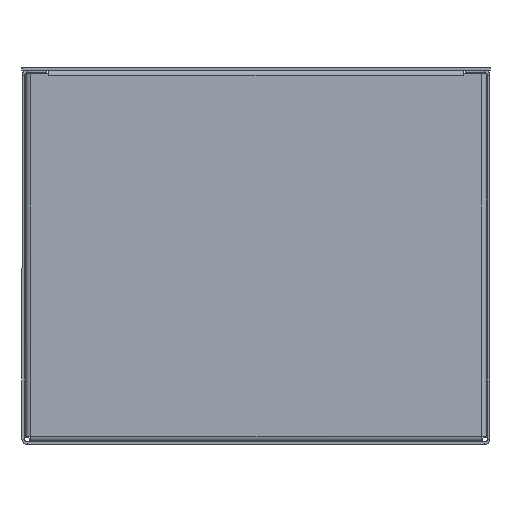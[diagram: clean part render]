
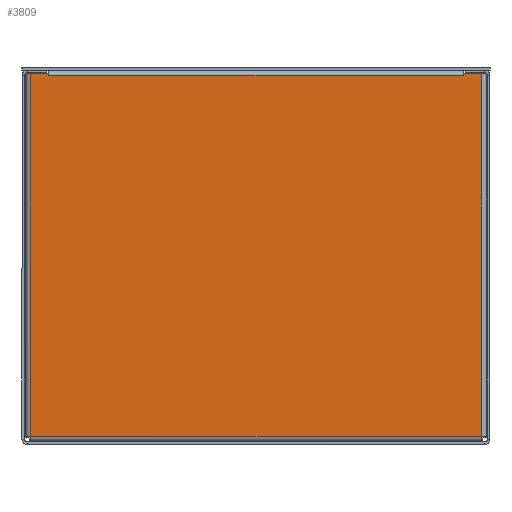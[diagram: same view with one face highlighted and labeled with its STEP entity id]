
A CAD part, front view. The second image highlights one B-rep face of the part: STEP entity #3809.
In plain terms, the highlighted planar face has unit normal (0, -1, 0).
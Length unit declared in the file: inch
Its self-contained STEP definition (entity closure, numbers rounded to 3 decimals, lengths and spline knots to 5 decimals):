
#6 = DIRECTION ( 'NONE',  ( 0., 1., 0. ) ) ;
#12 = DIRECTION ( 'NONE',  ( 0., 0., 1. ) ) ;
#15 = CARTESIAN_POINT ( 'NONE',  ( -4.815, 0., 7.92 ) ) ;
#92 = CARTESIAN_POINT ( 'NONE',  ( -4.93, 0., 7.92 ) ) ;
#93 = AXIS2_PLACEMENT_3D ( 'NONE', #92, #6, #12 ) ;
#95 = CARTESIAN_POINT ( 'NONE',  ( 4.43, 0., 7.92 ) ) ;
#319 = DIRECTION ( 'NONE',  ( 0., 0., -1. ) ) ;
#320 = PLANE ( 'NONE',  #93 ) ;
#324 = VECTOR ( 'NONE', #319, 39.37008 ) ;
#393 = FACE_OUTER_BOUND ( 'NONE', #3810, .T. ) ;
#394 = LINE ( 'NONE', #15, #324 ) ;
#395 = VECTOR ( 'NONE', #398, 39.37008 ) ;
#396 = CARTESIAN_POINT ( 'NONE',  ( 4.815, 0., 7.92 ) ) ;
#397 = LINE ( 'NONE', #399, #395 ) ;
#398 = DIRECTION ( 'NONE',  ( 1., 0., 0. ) ) ;
#399 = CARTESIAN_POINT ( 'NONE',  ( -4.93, 0., 7.92 ) ) ;
#400 = CARTESIAN_POINT ( 'NONE',  ( -4.815, 0., 7.92 ) ) ;
#401 = CARTESIAN_POINT ( 'NONE',  ( 4.43, 0., 7.885 ) ) ;
#412 = CARTESIAN_POINT ( 'NONE',  ( 4.815, 0., 0.175 ) ) ;
#413 = LINE ( 'NONE', #416, #425 ) ;
#414 = DIRECTION ( 'NONE',  ( 0., 0., 1. ) ) ;
#416 = CARTESIAN_POINT ( 'NONE',  ( -4.43, 0., 7.92 ) ) ;
#418 = VECTOR ( 'NONE', #414, 39.37008 ) ;
#421 = CARTESIAN_POINT ( 'NONE',  ( -4.43, 0., 7.92 ) ) ;
#424 = DIRECTION ( 'NONE',  ( 0., 0., -1. ) ) ;
#425 = VECTOR ( 'NONE', #424, 39.37008 ) ;
#427 = CARTESIAN_POINT ( 'NONE',  ( 4.815, 0., 0.15318 ) ) ;
#430 = LINE ( 'NONE', #427, #418 ) ;
#529 = DIRECTION ( 'NONE',  ( -1., 0., 0. ) ) ;
#531 = CARTESIAN_POINT ( 'NONE',  ( -4.43, 0., 7.885 ) ) ;
#532 = DIRECTION ( 'NONE',  ( 0., 0., 1. ) ) ;
#533 = VECTOR ( 'NONE', #532, 39.37008 ) ;
#534 = CARTESIAN_POINT ( 'NONE',  ( 4.43, 0., 7.92 ) ) ;
#535 = LINE ( 'NONE', #534, #533 ) ;
#540 = CARTESIAN_POINT ( 'NONE',  ( 4.43, 0., 7.885 ) ) ;
#544 = DIRECTION ( 'NONE',  ( 1., 0., 0. ) ) ;
#551 = VECTOR ( 'NONE', #544, 39.37008 ) ;
#554 = LINE ( 'NONE', #587, #551 ) ;
#563 = LINE ( 'NONE', #540, #588 ) ;
#571 = DIRECTION ( 'NONE',  ( 1., 0., 0. ) ) ;
#572 = VECTOR ( 'NONE', #571, 39.37008 ) ;
#573 = CARTESIAN_POINT ( 'NONE',  ( 4.93, 0., 7.92 ) ) ;
#574 = LINE ( 'NONE', #573, #572 ) ;
#587 = CARTESIAN_POINT ( 'NONE',  ( -4.83682, 0., 0.175 ) ) ;
#588 = VECTOR ( 'NONE', #529, 39.37008 ) ;
#594 = CARTESIAN_POINT ( 'NONE',  ( -4.815, 0., 0.175 ) ) ;
#2350 = VERTEX_POINT ( 'NONE', #95 ) ;
#3803 = ORIENTED_EDGE ( 'NONE', *, *, #3846, .F. ) ;
#3809 = ADVANCED_FACE ( 'NONE', ( #393 ), #320, .F. ) ;
#3810 = EDGE_LOOP ( 'NONE', ( #3803, #3819, #3820, #3814, #3812, #3822, #3862, #3890 ) ) ;
#3812 = ORIENTED_EDGE ( 'NONE', *, *, #3817, .T. ) ;
#3813 = VERTEX_POINT ( 'NONE', #400 ) ;
#3814 = ORIENTED_EDGE ( 'NONE', *, *, #3816, .F. ) ;
#3815 = VERTEX_POINT ( 'NONE', #396 ) ;
#3816 = EDGE_CURVE ( 'NONE', #3813, #3876, #397, .T. ) ;
#3817 = EDGE_CURVE ( 'NONE', #3813, #3818, #394, .T. ) ;
#3818 = VERTEX_POINT ( 'NONE', #594 ) ;
#3819 = ORIENTED_EDGE ( 'NONE', *, *, #3821, .T. ) ;
#3820 = ORIENTED_EDGE ( 'NONE', *, *, #3872, .F. ) ;
#3821 = EDGE_CURVE ( 'NONE', #3879, #3847, #563, .T. ) ;
#3822 = ORIENTED_EDGE ( 'NONE', *, *, #3823, .T. ) ;
#3823 = EDGE_CURVE ( 'NONE', #3818, #3868, #554, .T. ) ;
#3846 = EDGE_CURVE ( 'NONE', #3879, #2350, #535, .T. ) ;
#3847 = VERTEX_POINT ( 'NONE', #531 ) ;
#3862 = ORIENTED_EDGE ( 'NONE', *, *, #3865, .T. ) ;
#3863 = EDGE_CURVE ( 'NONE', #2350, #3815, #574, .T. ) ;
#3865 = EDGE_CURVE ( 'NONE', #3868, #3815, #430, .T. ) ;
#3868 = VERTEX_POINT ( 'NONE', #412 ) ;
#3872 = EDGE_CURVE ( 'NONE', #3876, #3847, #413, .T. ) ;
#3876 = VERTEX_POINT ( 'NONE', #421 ) ;
#3879 = VERTEX_POINT ( 'NONE', #401 ) ;
#3890 = ORIENTED_EDGE ( 'NONE', *, *, #3863, .F. ) ;
